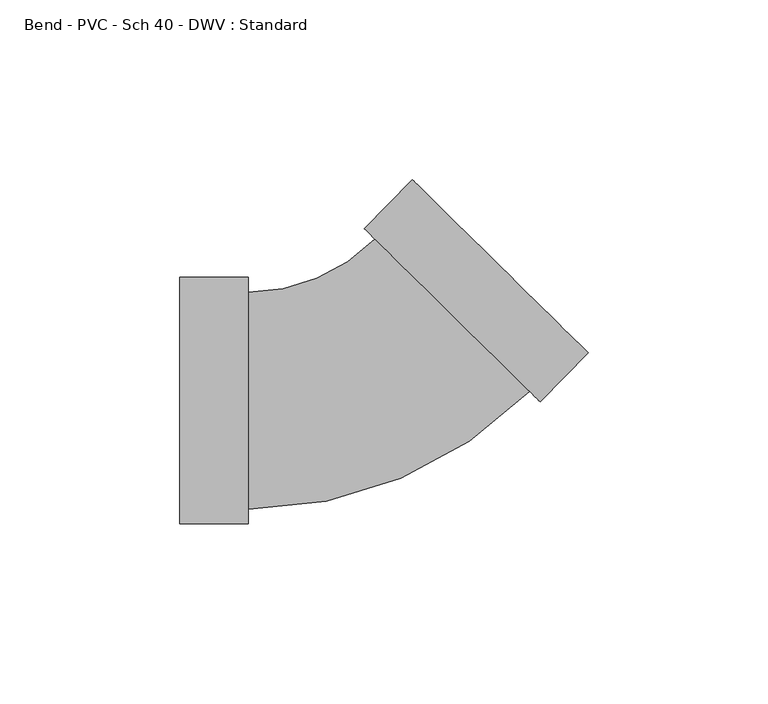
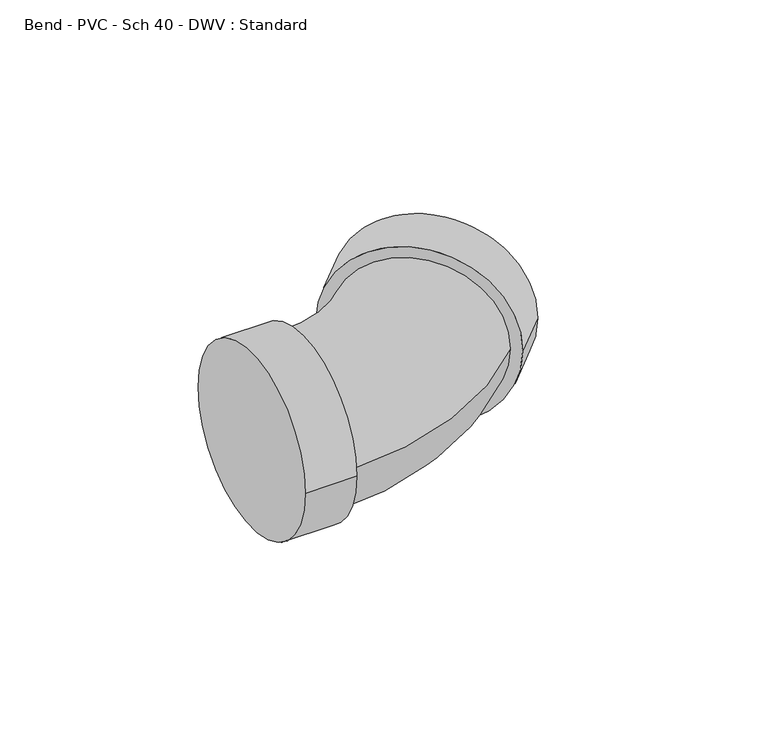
"""IFC4 building model written with IfcOpenShell, lengths in millimetres: pipe fitting geometry, Bend - PVC - Sch 40 - DWV : Standard."""

import ifcopenshell
import ifcopenshell.guid

model = None  # the IFC model being written
_history = None  # IfcOwnerHistory: only IFC2X3 demands one
_inside = {}  # id of a spatial element -> (the spatial element, [elements in it])
_under = {}  # id of a project, library or spatial element -> (it, [spatial elements below it])
_declared = {}  # id of a project -> (the project, [libraries it declares])
_typed = {}  # id of a type object -> (the type object, [elements of that type])
_made_of = {}  # id of a material, layer set ... -> (it, [elements and type objects made of it])


def new_model(schema):
    """Start an empty IFC model of exactly this schema.

    Asked for "IFC4X3", IfcOpenShell would pick the latest addendum, in which some entities
    have other attributes; the version numbers below select the first issue.
    IFC2X3 requires an IfcOwnerHistory on every rooted entity: one is made here for all.
    """
    global model, _history
    if schema == "IFC4X3":
        model = ifcopenshell.file(schema_version=(4, 3, 0, 0))
    else:
        model = ifcopenshell.file(schema=schema)
    _inside.clear()
    _under.clear()
    _declared.clear()
    _typed.clear()
    _made_of.clear()
    _history = None
    if model.schema == "IFC2X3":
        org = make("IfcOrganization", Name="unknown")
        user = make(
            "IfcPersonAndOrganization",
            ThePerson=make("IfcPerson", FamilyName="unknown"),
            TheOrganization=org,
        )
        app = make(
            "IfcApplication",
            ApplicationDeveloper=org,
            Version="unknown",
            ApplicationFullName="unknown",
            ApplicationIdentifier="unknown",
        )
        _history = make(
            "IfcOwnerHistory",
            OwningUser=user,
            OwningApplication=app,
            ChangeAction="ADDED",
            CreationDate=0,
        )
    return model


def make(cls, **values):
    """One entity of the class cls with the attributes given. An attribute that is None is left unset."""
    return model.create_entity(
        cls, **{name: value for name, value in values.items() if value is not None}
    )


def rooted(cls, **values):
    """An entity with a GlobalId (a new one), such as an element, a storey or a relation."""
    return make(cls, GlobalId=ifcopenshell.guid.new(), OwnerHistory=_history, **values)


def si_unit(unit_type, name, prefix=None):
    """IfcSIUnit, for example si_unit("LENGTHUNIT", "METRE", prefix="MILLI")."""
    return make("IfcSIUnit", UnitType=unit_type, Prefix=prefix, Name=name)


def assignment(units):
    """IfcUnitAssignment: the units of a project."""
    return None if units is None else make("IfcUnitAssignment", Units=units)


def point(xyz):
    """IfcCartesianPoint."""
    return None if xyz is None else make("IfcCartesianPoint", Coordinates=xyz)


def direction(xyz):
    """IfcDirection."""
    return None if xyz is None else make("IfcDirection", DirectionRatios=xyz)


def frame(location, z_axis=None, x_axis=None):
    """IfcAxis2Placement3D, a coordinate frame: its origin and axes. An axis left out is left unset."""
    return make(
        "IfcAxis2Placement3D",
        Location=point(location),
        Axis=direction(z_axis),
        RefDirection=direction(x_axis),
    )


def origin():
    """The frame at (0, 0, 0) with its axes left unset."""
    return frame((0.0, 0.0, 0.0))


def place(relative_to, where):
    """IfcLocalPlacement: puts the frame where relative to a parent placement (None: the world)."""
    return make(
        "IfcLocalPlacement", PlacementRelTo=relative_to, RelativePlacement=where
    )


def context(
    kind, dimensions, precision=None, world=None, true_north=None, identifier=None
):
    """IfcGeometricRepresentationContext, for example the 3D "Model" context."""
    return make(
        "IfcGeometricRepresentationContext",
        ContextIdentifier=identifier,
        ContextType=kind,
        CoordinateSpaceDimension=dimensions,
        Precision=precision,
        WorldCoordinateSystem=world,
        TrueNorth=true_north,
    )


def project(units=None, contexts=None):
    """IfcProject with its units and contexts."""
    return rooted(
        "IfcProject",
        Name="project",
        RepresentationContexts=contexts,
        UnitsInContext=assignment(units),
    )


def spatial(cls, under=None, at=None, **own):
    """A site, building, storey or space (cls), placed at a placement, below another one or the project."""
    s = rooted(cls, ObjectPlacement=at, **own)
    if under is not None:
        _under.setdefault(under.id(), (under, []))[1].append(s)
    return s


def circle_curve(where, radius):
    """IfcCircle in the frame where."""
    return make("IfcCircle", Position=where, Radius=radius)


def ellipse_curve(where, semi_axis1, semi_axis2):
    """IfcEllipse in the frame where."""
    return make(
        "IfcEllipse", Position=where, SemiAxis1=semi_axis1, SemiAxis2=semi_axis2
    )


def trimmed(basis, trim1, trim2, sense, master):
    """IfcTrimmedCurve: the piece of a basis curve between two trims."""
    return make(
        "IfcTrimmedCurve",
        BasisCurve=basis,
        Trim1=trim1,
        Trim2=trim2,
        SenseAgreement=sense,
        MasterRepresentation=master,
    )


def shape(context_of_items, identifier, shape_type, items):
    """IfcShapeRepresentation: the items that make up one representation, for example the "Body"."""
    return make(
        "IfcShapeRepresentation",
        ContextOfItems=context_of_items,
        RepresentationIdentifier=identifier,
        RepresentationType=shape_type,
        Items=items,
    )


def source(mapping_origin, context_of_items, identifier, shape_type, items):
    """IfcRepresentationMap: a shape defined once, which mapped items show again and again."""
    return make(
        "IfcRepresentationMap",
        MappingOrigin=mapping_origin,
        MappedRepresentation=shape(context_of_items, identifier, shape_type, items),
    )


def transform(
    local_origin,
    x_axis=None,
    y_axis=None,
    z_axis=None,
    scale=None,
    scale2=None,
    scale3=None,
    uniform=True,
):
    """IfcCartesianTransformationOperator3D, or its non-uniform kind. x_axis, y_axis, z_axis: its Axis1, 2, 3."""
    if uniform:
        return make(
            "IfcCartesianTransformationOperator3D",
            Axis1=direction(x_axis),
            Axis2=direction(y_axis),
            LocalOrigin=point(local_origin),
            Scale=scale,
            Axis3=direction(z_axis),
        )
    return make(
        "IfcCartesianTransformationOperator3DnonUniform",
        Axis1=direction(x_axis),
        Axis2=direction(y_axis),
        LocalOrigin=point(local_origin),
        Scale=scale,
        Axis3=direction(z_axis),
        Scale2=scale2,
        Scale3=scale3,
    )


def mapped(mapping_source, mapping_target):
    """IfcMappedItem: shows the shape of a source again, moved by a transform."""
    return make(
        "IfcMappedItem", MappingSource=mapping_source, MappingTarget=mapping_target
    )


def made_of(thing, what):
    """Note that an element or type object is made of a material, layer set ...; save() writes the relation."""
    if what is not None:
        _made_of.setdefault(what.id(), (what, []))[1].append(thing)
    return thing


def element(
    cls,
    number,
    at=None,
    inside=None,
    cuts=None,
    type_object=None,
    material=None,
    context=None,
    identifier="Body",
    shape_type=None,
    held_by="IfcProductDefinitionShape",
    body=None,
    shapes=None,
    **own,
):
    """One element of the class cls, such as IfcWall. Its Tag is "e" and its number.

    at: its placement. inside: the storey or other place that contains it. cuts: it is an
    opening in that element (IfcRelVoidsElement). A single representation is given by context,
    identifier, shape_type and body (its items); several are given by shapes. held_by: the class
    of the entity that holds the representations. save() writes the other relations.
    """
    e = rooted(cls, Tag="e%d" % number, ObjectPlacement=at, **own)
    if body is not None:
        shapes = [shape(context, identifier, shape_type, body)]
    if shapes is not None:
        e.Representation = make(held_by, Representations=shapes)
    if inside is not None:
        _inside.setdefault(inside.id(), (inside, []))[1].append(e)
    if cuts is not None:
        rooted(
            "IfcRelVoidsElement", RelatingBuildingElement=cuts, RelatedOpeningElement=e
        )
    if type_object is not None:
        _typed.setdefault(type_object.id(), (type_object, []))[1].append(e)
    return made_of(e, material)


def aggregate(whole, parts):
    """IfcRelAggregates: a whole, such as a stair, and the parts it consists of."""
    return rooted("IfcRelAggregates", RelatingObject=whole, RelatedObjects=parts)


def save(model, path):
    """Write the relations noted so far, then the file.

    IfcRelAggregates (storeys below a building ...), IfcRelContainedInSpatialStructure (elements
    in a storey), IfcRelDefinesByType, IfcRelAssociatesMaterial and IfcRelDeclares: one each for
    every whole, place, type object, material and project.
    """
    for whole, parts in _under.values():
        aggregate(whole, parts)
    for where, things in _inside.values():
        rooted(
            "IfcRelContainedInSpatialStructure",
            RelatedElements=things,
            RelatingStructure=where,
        )
    for kind, things in _typed.values():
        rooted("IfcRelDefinesByType", RelatedObjects=things, RelatingType=kind)
    for what, things in _made_of.values():
        rooted("IfcRelAssociatesMaterial", RelatedObjects=things, RelatingMaterial=what)
    for by, libraries in _declared.values():
        rooted("IfcRelDeclares", RelatingContext=by, RelatedDefinitions=libraries)
    model.write(path)


def plane_surface(at):
    """IfcPlane: the flat surface through the origin of the frame at, square to its z axis."""
    return make("IfcPlane", Position=at)


def cylinder_surface(at, radius):
    """IfcCylindricalSurface: all points at the distance radius from the z axis of the frame at."""
    return make("IfcCylindricalSurface", Position=at, Radius=radius)


def revolved_surface(curve, axis_point, axis_direction):
    """IfcSurfaceOfRevolution: the curve turned about the line through axis_point along axis_direction."""
    return make(
        "IfcSurfaceOfRevolution",
        SweptCurve=make("IfcArbitraryOpenProfileDef", ProfileType="CURVE", Curve=curve),
        AxisPosition=make("IfcAxis1Placement", Location=point(axis_point), Axis=direction(axis_direction)),
    )


def advanced_brep(points, edges, surfaces, faces):
    """IfcAdvancedBrep: a solid bounded by faces that lie on surfaces and meet in shared edges.

    An edge is (start, end): straight between two places in points (the first is 0);
    or (start, end, curve); or (start, end, curve, False) where it runs against its curve.
    A face is (place in surfaces, loops), or (place, loops, False) where it looks against
    its surface's normal. A loop lists edges by number (the first is 1), with a minus sign
    where the edge is run from its end to its start. The first loop is the outer one.
    """
    corners = [point(p) for p in points]
    vertices = [make("IfcVertexPoint", VertexGeometry=c) for c in corners]
    made = []
    for start, end, *more in edges:
        made.append(
            make(
                "IfcEdgeCurve",
                EdgeStart=vertices[start],
                EdgeEnd=vertices[end],
                EdgeGeometry=more[0] if more else make("IfcPolyline", Points=[corners[start], corners[end]]),
                SameSense=more[1] if len(more) > 1 else True,
            )
        )
    hull = []
    for where, loops, *sense in faces:
        bounds = []
        for j, loop in enumerate(loops):
            ring = [make("IfcOrientedEdge", EdgeElement=made[abs(k) - 1], Orientation=k > 0) for k in loop]
            bounds.append(
                make(
                    "IfcFaceOuterBound" if j == 0 else "IfcFaceBound",
                    Bound=make("IfcEdgeLoop", EdgeList=ring),
                    Orientation=True,
                )
            )
        hull.append(make("IfcAdvancedFace", Bounds=bounds, FaceSurface=surfaces[where], SameSense=sense[0] if sense else True))
    return make("IfcAdvancedBrep", Outer=make("IfcClosedShell", CfsFaces=hull))


def bend_pvc_sch_40_dwv_standard_1fcfdb7d(model_context):
    return source(origin(), model_context, "Body", "AdvancedBrep", [
        advanced_brep(
        [(-52.4002, -34.3154, 0.0), (-52.4002, 34.3154, 0.0), (-33.3502, -34.3154, 0.0), (-33.3502, 34.3154, 0.0), (-33.3502, -30.1625, 0.0), (-33.3502, 30.1625, 0.0), (1.9019283, 44.9265502, 0.0), (44.8912118, 2.6060217, 0.0), (47.8506846, -0.3074125, 0.0), (-1.0575445, 47.8399845, 0.0), (61.215062, 13.2681507, 0.0), (12.306833, 61.4155477, 0.0)],
        [
            (0, 1, circle_curve(frame((-52.4002, 0.0, 0.0), z_axis=(-1.0, 0.0, 0.0), x_axis=(0.0, 1.0, 0.0)), 34.3154)),
            (1, 0, circle_curve(frame((-52.4002, 0.0, 0.0), z_axis=(-1.0, 0.0, 0.0), x_axis=(0.0, 1.0, 0.0)), 34.3154)),
            (2, 3, circle_curve(frame((-33.3502, 0.0, 0.0), z_axis=(1.0, 0.0, 0.0), x_axis=(0.0, 1.0, 0.0)), 34.3154)),
            (3, 2, circle_curve(frame((-33.3502, 0.0, 0.0), z_axis=(1.0, 0.0, 0.0), x_axis=(0.0, 1.0, 0.0)), 34.3154)),
            (4, 5, circle_curve(frame((-33.3502, 0.0, 0.0), z_axis=(-1.0, 0.0, 0.0), x_axis=(0.0, 1.0, 0.0)), 30.1625)),
            (5, 4, circle_curve(frame((-33.3502, 0.0, 0.0), z_axis=(-1.0, 0.0, 0.0), x_axis=(0.0, 1.0, 0.0)), 30.1625)),
            (0, 2),
            (3, 1),
            (6, 5, circle_curve(frame((-33.3502, 79.6302852, 0.0), z_axis=(0.0, 0.0, -1.0), x_axis=(0.0, -1.0, 0.0)), 49.4677852)),
            (4, 7, circle_curve(frame((-33.3502, 79.6302852, 0.0), z_axis=(0.0, 0.0, 1.0), x_axis=(0.0, -1.0, 0.0)), 109.7927852)),
            (7, 6, circle_curve(frame((23.3965701, 23.766286, 0.0), z_axis=(-0.7015421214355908, -0.7126279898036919, 0.0), x_axis=(-0.7126279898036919, 0.7015421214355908, 0.0)), 30.1625)),
            (6, 7, circle_curve(frame((23.3965701, 23.766286, 0.0), z_axis=(-0.7015421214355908, -0.7126279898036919, 0.0), x_axis=(-0.7126279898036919, 0.7015421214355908, 0.0)), 30.1625)),
            (8, 9, circle_curve(frame((23.3965701, 23.766286, 0.0), z_axis=(-0.7015421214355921, -0.7126279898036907, 0.0), x_axis=(-0.7126279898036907, 0.7015421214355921, 0.0)), 34.3154)),
            (9, 8, circle_curve(frame((23.3965701, 23.766286, 0.0), z_axis=(-0.7015421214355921, -0.7126279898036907, 0.0), x_axis=(-0.7126279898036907, 0.7015421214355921, 0.0)), 34.3154)),
            (10, 11, circle_curve(frame((36.7609475, 37.3418492, 0.0), z_axis=(0.7015421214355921, 0.7126279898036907, 0.0), x_axis=(-0.7126279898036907, 0.7015421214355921, 0.0)), 34.3154)),
            (11, 10, circle_curve(frame((36.7609475, 37.3418492, 0.0), z_axis=(0.7015421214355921, 0.7126279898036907, 0.0), x_axis=(-0.7126279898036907, 0.7015421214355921, 0.0)), 34.3154)),
            (8, 10),
            (11, 9),
        ],
        [
            plane_surface(frame((-52.4002, 0.0, 0.0), z_axis=(-1.0, 0.0, 0.0), x_axis=(0.0, 0.0, 1.0))),
            plane_surface(frame((-33.3502, 0.0, 0.0), z_axis=(1.0, 0.0, 0.0), x_axis=(0.0, 0.0, 1.0))),
            cylinder_surface(frame((-52.4002, 0.0, 0.0), z_axis=(-1.0, 0.0, 0.0), x_axis=(0.0, 1.0, 0.0)), 34.3154),
            revolved_surface(trimmed(ellipse_curve(frame((-33.3502, 0.0, 0.0), z_axis=(-1.0, 0.0, 0.0), x_axis=(0.0, 1.0, 0.0)), 30.1625, 30.1625), [point((-33.3502, -30.1625, 0.0))], [point((-33.3502, 30.1625, 0.0))], True, "CARTESIAN"), (-33.3502, 79.6302852, 0.0), (0.0, 0.0, 1.0)),
            revolved_surface(trimmed(ellipse_curve(frame((-33.3502, 0.0, 0.0), z_axis=(-1.0, 0.0, 0.0), x_axis=(0.0, 1.0, 0.0)), 30.1625, 30.1625), [point((-33.3502, 30.1625, 0.0))], [point((-33.3502, -30.1625, 0.0))], True, "CARTESIAN"), (-33.3502, 79.6302852, 0.0), (0.0, 0.0, 1.0)),
            plane_surface(frame((23.3965701, 23.766286, 0.0), z_axis=(-0.7015421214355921, -0.7126279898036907, 0.0), x_axis=(0.0, 0.0, 1.0))),
            plane_surface(frame((36.7609475, 37.3418492, 0.0), z_axis=(0.7015421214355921, 0.7126279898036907, 0.0), x_axis=(0.0, 0.0, 1.0))),
            cylinder_surface(frame((23.3965701, 23.766286, 0.0), z_axis=(-0.7015421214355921, -0.7126279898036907, 0.0), x_axis=(-0.7126279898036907, 0.7015421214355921, 0.0)), 34.3154),
        ],
        [
            (0, [[1, 2]]),
            (1, [[3, 4], [5, 6]]),
            (2, [[-1, 7, -4, 8]]),
            (2, [[-2, -8, -3, -7]]),
            (3, [[9, -5, 10, 11]]),
            (4, [[-9, 12, -10, -6]]),
            (5, [[13, 14], [-11, -12]]),
            (6, [[15, 16]]),
            (7, [[-13, 17, -16, 18]]),
            (7, [[-14, -18, -15, -17]]),
        ],
    ),
    ])


if __name__ == "__main__":
    model = new_model("IFC4")
    model_context = context("Model", 3, world=origin())
    ifc_project = project(units=[si_unit("LENGTHUNIT", "METRE", prefix="MILLI")], contexts=[model_context])
    site = spatial("IfcSite", under=ifc_project)
    building = spatial("IfcBuilding", under=site)
    placement = place(None, origin())
    bend_pvc_sch_40_dwv_standard_shape = bend_pvc_sch_40_dwv_standard_1fcfdb7d(model_context)
    element("IfcPipeFitting", 1, ObjectType="Bend - PVC - Sch 40 - DWV : Standard", at=placement, inside=building, context=model_context, shape_type="MappedRepresentation", body=[
        mapped(bend_pvc_sch_40_dwv_standard_shape, transform((0.0, 0.0, 0.0), x_axis=(1.0, 0.0, 0.0), y_axis=(0.0, 1.0, 0.0), z_axis=(0.0, 0.0, 1.0))),
    ])
    save(model, "model.ifc")
